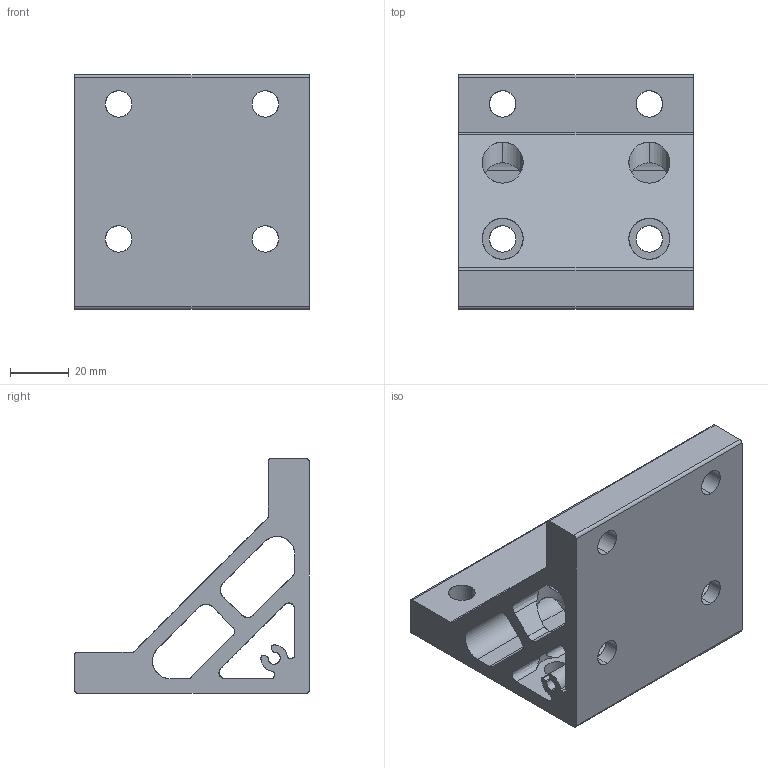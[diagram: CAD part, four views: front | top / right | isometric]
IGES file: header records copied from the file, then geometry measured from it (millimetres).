
Start section: SolidWorks IGES file using analytic representation for surfaces
Global section: file name: C:\Documents and Settings\KKobayashi\デスクトップ\IGS\SFJ-N72.IGS; native system: SolidWorks 2011; preprocessor: SolidWorks 2011; author: Kkobayashi; date: 121119.132721; units: millimetre
Bounding box: 80 x 80 x 80 mm (x, y, z)
Surface area: 48717.5 mm2 (no closed solid volume)
Topology: 0 solids, 0 shells, 118 faces, 3069 edges, 3069 vertices
Faces by surface type: revolution 88, bspline 30
